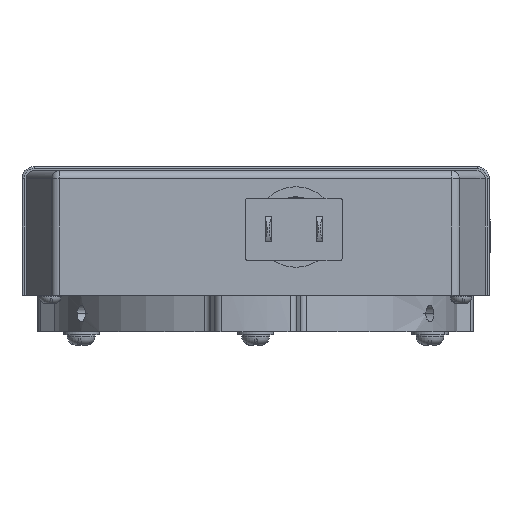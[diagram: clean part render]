
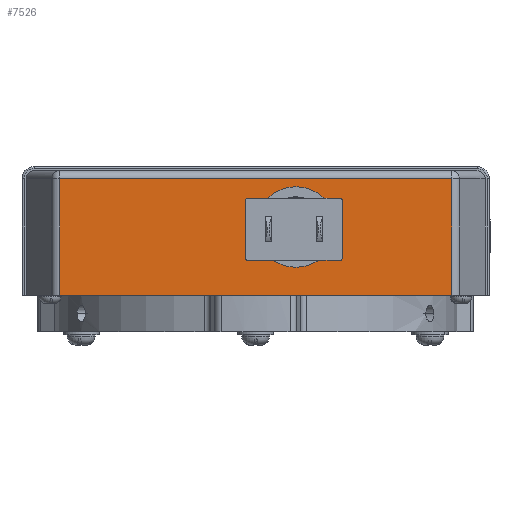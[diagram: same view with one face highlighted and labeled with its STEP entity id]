
A CAD part, front view. The second image highlights one B-rep face of the part: STEP entity #7526.
In plain terms, the highlighted planar face has unit normal (0, -1, 0).
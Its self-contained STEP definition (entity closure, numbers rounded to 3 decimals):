
#3 = ORIENTED_EDGE ( 'NONE', *, *, #10665, .T. ) ;
#39 = VECTOR ( 'NONE', #8720, 1000. ) ;
#359 = CARTESIAN_POINT ( 'NONE',  ( 10., -58., 17. ) ) ;
#853 = VERTEX_POINT ( 'NONE', #10056 ) ;
#1183 = CIRCLE ( 'NONE', #2628, 10. ) ;
#1290 = EDGE_CURVE ( 'NONE', #853, #11127, #11984, .T. ) ;
#1474 = FACE_OUTER_BOUND ( 'NONE', #3244, .T. ) ;
#2608 = AXIS2_PLACEMENT_3D ( 'NONE', #6506, #6626, #8293 ) ;
#2628 = AXIS2_PLACEMENT_3D ( 'NONE', #18581, #16909, #14898 ) ;
#3244 = EDGE_LOOP ( 'NONE', ( #20270, #18938, #10420, #19466, #10055 ) ) ;
#3366 = CARTESIAN_POINT ( 'NONE',  ( 48.684, -58., 0. ) ) ;
#3384 = VECTOR ( 'NONE', #9055, 1000. ) ;
#3487 = EDGE_CURVE ( 'NONE', #5062, #4344, #5462, .T. ) ;
#3632 = AXIS2_PLACEMENT_3D ( 'NONE', #359, #12537, #20948 ) ;
#4127 = DIRECTION ( 'NONE',  ( -1., 0., 0. ) ) ;
#4344 = VERTEX_POINT ( 'NONE', #5515 ) ;
#4868 = CARTESIAN_POINT ( 'NONE',  ( -48.684, -58., 0. ) ) ;
#5062 = VERTEX_POINT ( 'NONE', #3366 ) ;
#5462 = LINE ( 'NONE', #7033, #17126 ) ;
#5515 = CARTESIAN_POINT ( 'NONE',  ( 48.684, -58., 29. ) ) ;
#5771 = CIRCLE ( 'NONE', #3632, 10. ) ;
#5943 = EDGE_CURVE ( 'NONE', #10057, #21623, #5771, .T. ) ;
#6408 = CARTESIAN_POINT ( 'NONE',  ( 0., -58., 17. ) ) ;
#6506 = CARTESIAN_POINT ( 'NONE',  ( 0., -58., 0. ) ) ;
#6626 = DIRECTION ( 'NONE',  ( 0., -1., 0. ) ) ;
#7033 = CARTESIAN_POINT ( 'NONE',  ( 48.684, -58., 0. ) ) ;
#7526 = ADVANCED_FACE ( 'NONE', ( #1474, #15000 ), #13113, .T. ) ;
#8293 = DIRECTION ( 'NONE',  ( 0., 0., -1. ) ) ;
#8720 = DIRECTION ( 'NONE',  ( -1., 0., 0. ) ) ;
#9055 = DIRECTION ( 'NONE',  ( 0., 0., -1. ) ) ;
#9146 = CARTESIAN_POINT ( 'NONE',  ( -48.684, -58., 0. ) ) ;
#10055 = ORIENTED_EDGE ( 'NONE', *, *, #1290, .F. ) ;
#10056 = CARTESIAN_POINT ( 'NONE',  ( 0., -58., 0. ) ) ;
#10057 = VERTEX_POINT ( 'NONE', #21542 ) ;
#10288 = CARTESIAN_POINT ( 'NONE',  ( -50.085, -58., 0. ) ) ;
#10420 = ORIENTED_EDGE ( 'NONE', *, *, #18190, .T. ) ;
#10665 = EDGE_CURVE ( 'NONE', #21623, #10057, #1183, .T. ) ;
#10819 = LINE ( 'NONE', #19221, #19463 ) ;
#10881 = VECTOR ( 'NONE', #17859, 1000. ) ;
#10917 = EDGE_LOOP ( 'NONE', ( #3, #17342 ) ) ;
#11036 = CARTESIAN_POINT ( 'NONE',  ( 0., -58., 29. ) ) ;
#11127 = VERTEX_POINT ( 'NONE', #9146 ) ;
#11378 = CARTESIAN_POINT ( 'NONE',  ( -48.684, -58., 29. ) ) ;
#11984 = LINE ( 'NONE', #10288, #39 ) ;
#12537 = DIRECTION ( 'NONE',  ( 0., 1., 0. ) ) ;
#12932 = LINE ( 'NONE', #11036, #10881 ) ;
#13113 = PLANE ( 'NONE',  #2608 ) ;
#13925 = EDGE_CURVE ( 'NONE', #19827, #11127, #15024, .T. ) ;
#14463 = EDGE_CURVE ( 'NONE', #5062, #853, #10819, .T. ) ;
#14898 = DIRECTION ( 'NONE',  ( -1., 0., 0. ) ) ;
#15000 = FACE_BOUND ( 'NONE', #10917, .T. ) ;
#15024 = LINE ( 'NONE', #4868, #3384 ) ;
#16909 = DIRECTION ( 'NONE',  ( 0., 1., 0. ) ) ;
#17126 = VECTOR ( 'NONE', #17324, 1000. ) ;
#17324 = DIRECTION ( 'NONE',  ( 0., 0., 1. ) ) ;
#17342 = ORIENTED_EDGE ( 'NONE', *, *, #5943, .T. ) ;
#17859 = DIRECTION ( 'NONE',  ( -1., 0., 0. ) ) ;
#18190 = EDGE_CURVE ( 'NONE', #4344, #19827, #12932, .T. ) ;
#18581 = CARTESIAN_POINT ( 'NONE',  ( 10., -58., 17. ) ) ;
#18938 = ORIENTED_EDGE ( 'NONE', *, *, #3487, .T. ) ;
#19221 = CARTESIAN_POINT ( 'NONE',  ( -50.085, -58., 0. ) ) ;
#19463 = VECTOR ( 'NONE', #4127, 1000. ) ;
#19466 = ORIENTED_EDGE ( 'NONE', *, *, #13925, .T. ) ;
#19827 = VERTEX_POINT ( 'NONE', #11378 ) ;
#20270 = ORIENTED_EDGE ( 'NONE', *, *, #14463, .F. ) ;
#20948 = DIRECTION ( 'NONE',  ( -1., 0., 0. ) ) ;
#21542 = CARTESIAN_POINT ( 'NONE',  ( 20., -58., 17. ) ) ;
#21623 = VERTEX_POINT ( 'NONE', #6408 ) ;
